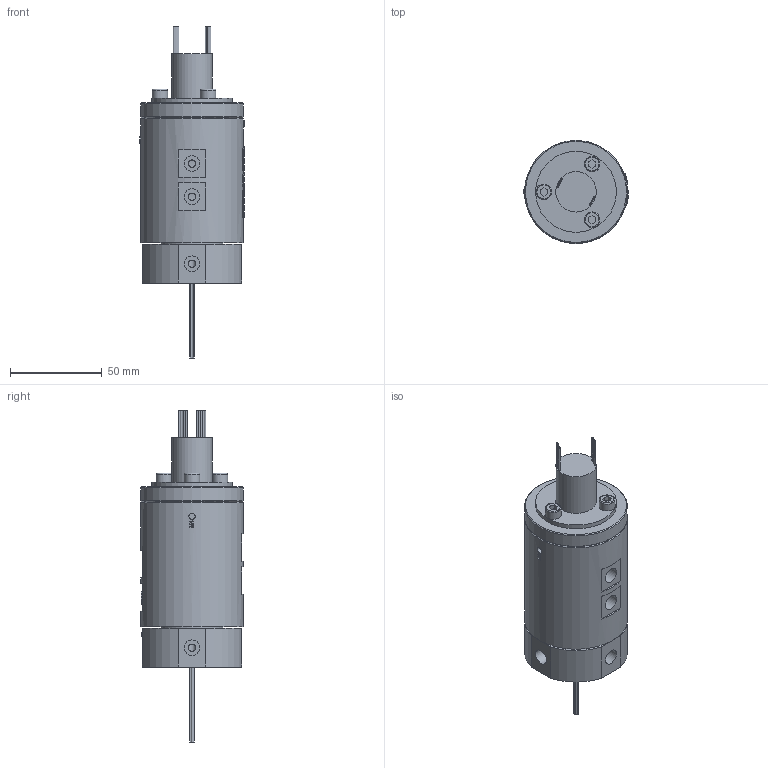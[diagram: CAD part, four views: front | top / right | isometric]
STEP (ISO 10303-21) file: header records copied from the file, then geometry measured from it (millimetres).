
FILE_DESCRIPTION(/* description */ (''),/* implementation_level */ '2;1');
FILE_NAME(/* name */ 'HQ0401-18M.stp',/* time_stamp */ '2025-02-14T11:53:47+08:00',/* author */ (''),/* organization */ (''),/* preprocessor_version */ 'ST-DEVELOPER v16.7',/* originating_system */ 'SIEMENS PLM Software NX 12.0',/* authorisation */ '');
FILE_SCHEMA (('AUTOMOTIVE_DESIGN { 1 0 10303 214 3 1 1 1 }'));
Length unit declared in the file: millimetre
Products named in the file (1): HX0540E8A2D8ngh3
Bounding box: 57 x 56 x 180.7 mm (x, y, z)
Volume: 242395.2 mm3; surface area: 37742.2 mm2
Topology: 1 solids, 4 shells, 1001 faces, 2629 edges, 1762 vertices
Faces by surface type: plane 480, extrusion 391, cylinder 90, bspline 30, cone 7, torus 3
Full cylindrical faces by diameter (mm): 0.8 x16, 3.4 x6, 4 x12, 4.1 x4, 4.2 x4, 5 x3, 5.5 x3, 7.8 x1, 8 x1, 8.5 x11, 22 x1, 34 x1, 44 x1, 56 x2
Entity records: 36508 total; most frequent: CARTESIAN_POINT 15219, ORIENTED_EDGE 4996, DIRECTION 2806, EDGE_CURVE 2498, B_SPLINE_CURVE_WITH_KNOTS 1945, VERTEX_POINT 1719, EDGE_LOOP 1211, VECTOR 1020
